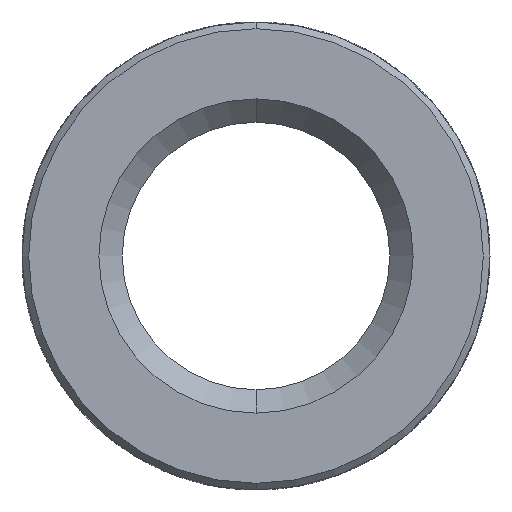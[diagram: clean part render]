
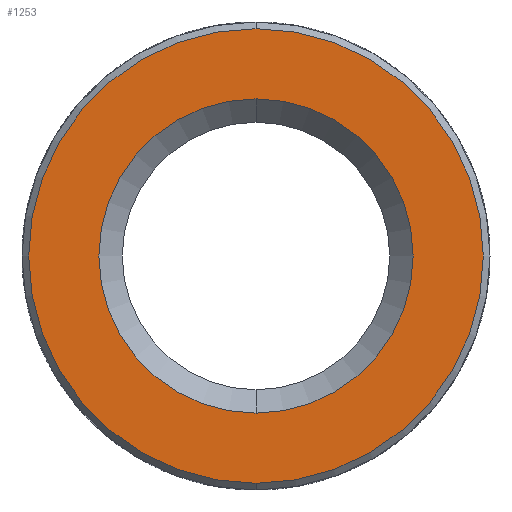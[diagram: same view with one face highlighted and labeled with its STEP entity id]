
A CAD part, front view. The second image highlights one B-rep face of the part: STEP entity #1253.
In plain terms, the highlighted planar face has unit normal (0, -1, 0).
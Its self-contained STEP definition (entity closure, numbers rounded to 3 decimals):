
#162 = EDGE_CURVE ( 'NONE', #260, #1779, #3724, .T. ) ;
#238 = DIRECTION ( 'NONE',  ( 0., 1., 0. ) ) ;
#260 = VERTEX_POINT ( 'NONE', #1717 ) ;
#421 = PLANE ( 'NONE',  #3282 ) ;
#437 = CARTESIAN_POINT ( 'NONE',  ( 0., -4.5, -2.35 ) ) ;
#458 = CARTESIAN_POINT ( 'NONE',  ( 0., -4.5, 0. ) ) ;
#592 = AXIS2_PLACEMENT_3D ( 'NONE', #458, #2791, #997 ) ;
#678 = EDGE_CURVE ( 'NONE', #1733, #2926, #815, .T. ) ;
#815 = CIRCLE ( 'NONE', #2771, 3.4 ) ;
#855 = FACE_BOUND ( 'NONE', #2651, .T. ) ;
#941 = FACE_OUTER_BOUND ( 'NONE', #2661, .T. ) ;
#997 = DIRECTION ( 'NONE',  ( 0., 0., -1. ) ) ;
#1253 = ADVANCED_FACE ( 'NONE', ( #941, #855 ), #421, .T. ) ;
#1274 = CIRCLE ( 'NONE', #3871, 3.4 ) ;
#1319 = DIRECTION ( 'NONE',  ( 0., 0., -1. ) ) ;
#1322 = CIRCLE ( 'NONE', #2049, 2.35 ) ;
#1326 = DIRECTION ( 'NONE',  ( 0., -1., 0. ) ) ;
#1359 = CARTESIAN_POINT ( 'NONE',  ( 0., -4.5, 0. ) ) ;
#1398 = ORIENTED_EDGE ( 'NONE', *, *, #2271, .T. ) ;
#1410 = DIRECTION ( 'NONE',  ( 0., -1., 0. ) ) ;
#1659 = ORIENTED_EDGE ( 'NONE', *, *, #678, .T. ) ;
#1674 = ORIENTED_EDGE ( 'NONE', *, *, #162, .T. ) ;
#1717 = CARTESIAN_POINT ( 'NONE',  ( 0., -4.5, 2.35 ) ) ;
#1733 = VERTEX_POINT ( 'NONE', #2617 ) ;
#1779 = VERTEX_POINT ( 'NONE', #437 ) ;
#2049 = AXIS2_PLACEMENT_3D ( 'NONE', #2919, #238, #3816 ) ;
#2129 = EDGE_CURVE ( 'NONE', #2926, #1733, #1274, .T. ) ;
#2207 = DIRECTION ( 'NONE',  ( 0., -1., 0. ) ) ;
#2271 = EDGE_CURVE ( 'NONE', #1779, #260, #1322, .T. ) ;
#2495 = ORIENTED_EDGE ( 'NONE', *, *, #2129, .T. ) ;
#2509 = CARTESIAN_POINT ( 'NONE',  ( 0., -4.5, 3.5 ) ) ;
#2540 = DIRECTION ( 'NONE',  ( 0., 0., -1. ) ) ;
#2617 = CARTESIAN_POINT ( 'NONE',  ( 0., -4.5, -3.4 ) ) ;
#2651 = EDGE_LOOP ( 'NONE', ( #1398, #1674 ) ) ;
#2661 = EDGE_LOOP ( 'NONE', ( #2495, #1659 ) ) ;
#2771 = AXIS2_PLACEMENT_3D ( 'NONE', #3161, #1410, #2540 ) ;
#2791 = DIRECTION ( 'NONE',  ( 0., 1., 0. ) ) ;
#2919 = CARTESIAN_POINT ( 'NONE',  ( 0., -4.5, 0. ) ) ;
#2926 = VERTEX_POINT ( 'NONE', #3198 ) ;
#3161 = CARTESIAN_POINT ( 'NONE',  ( 0., -4.5, 0. ) ) ;
#3198 = CARTESIAN_POINT ( 'NONE',  ( 0., -4.5, 3.4 ) ) ;
#3282 = AXIS2_PLACEMENT_3D ( 'NONE', #2509, #1326, #3410 ) ;
#3410 = DIRECTION ( 'NONE',  ( 0., 0., -1. ) ) ;
#3724 = CIRCLE ( 'NONE', #592, 2.35 ) ;
#3816 = DIRECTION ( 'NONE',  ( 0., 0., -1. ) ) ;
#3871 = AXIS2_PLACEMENT_3D ( 'NONE', #1359, #2207, #1319 ) ;
